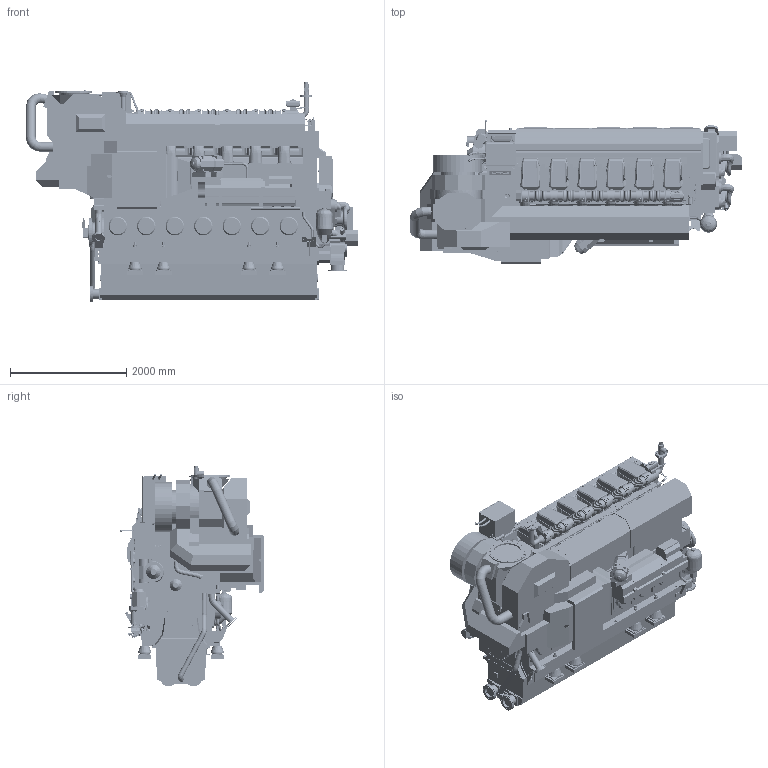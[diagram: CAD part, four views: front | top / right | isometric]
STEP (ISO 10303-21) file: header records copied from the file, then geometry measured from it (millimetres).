
FILE_DESCRIPTION(/* description */ (''),/* implementation_level */ '2;1');
FILE_NAME(/* name */ 'DAAF380574_A.stp',/* time_stamp */ '2021-11-09T14:12:14+02:00',/* author */ (''),/* organization */ (''),/* preprocessor_version */ 'ST-DEVELOPER v16.7',/* originating_system */ 'SIEMENS PLM Software NX 1915',/* authorisation */ '');
FILE_SCHEMA (('AUTOMOTIVE_DESIGN { 1 0 10303 214 3 1 1 1 }'));
Products named in the file (66): PAAF063769_-; PAAF895907_-; PAAF895909_-; PAAF906209_-; PABA065852_-; PAAF975946_-; PAAF975926_-; PABA066964_-; PABA181135_-; PAAF694391_-; PAAF624162_-; PAAF619118_-; PAAF619539_-; PAAF619521_-; PABA089633_-; PAAF906214_-; PAAF909496_-; PAAF909498_-; PAAF620935_-; PAAF616354_-; 0031B006100_K_MODEL; PAAF635310_-; PAAF642271_-; PAAF555086_-; PAAF555085_-; PAAF397145_-; PAAF291916_-; PAAF293701_-; PAAF111190_A; PAAF271372_-; PAAF270351_-; PAAF261807_-; PAAF247479_-; PAAF247485_-; PAAF243367_-; PAAF243503_-; PAAF243746_-; PAAF243671_-; PAAF243686_-; PAAF243622_-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
Assembly tree (115 placements, depth 2):
  PAAF643691_A
    PAAF063630_-
    PAAF074461_-
    PAAF078046_-
    PAAF074388_-
    PAAF078074_-
    PAAF078187_-
    PAAF078236_-
    PAAF078241_-
    PAAF093819_-
    PAAF093493_-
    PAAF068478_-
    PAAF068492_-
    PAAF074909_-
    PAAF078633_-
    PAAF159661_-
    PAAF087111_-
    PAAF087114_-
    PAAF087136_-
    PAAF093490_-
    PAAF087122_-
    PAAF093585_-
    PAAF087082_-
    PAAF064319_-
    PAAF238216_-
    PAAF243345_-
    PAAF243622_-
    PAAF243686_-
    PAAF243671_-
    PAAF243746_-
    PAAF243503_-  x11
    PAAF243367_-
    PAAF247485_-
    PAAF247479_-
    PAAF261807_-
    PAAF270351_-
    PAAF271372_-
    PAAF111190_A
    PAAF293701_-  x11
    PAAF291916_-
    PAAF397145_-
    PAAF555085_-
    PAAF555086_-
    PAAF642271_-  x8
    PAAF635310_-  x8
    0031B006100_K_MODEL  x8
    PAAF616354_-
    PAAF620935_-
    PAAF909498_-
    PAAF909496_-
    PAAF906214_-
    PABA089633_-
    PAAF619521_-
    PAAF619539_-
    PAAF619118_-
    PAAF624162_-
    PAAF694391_-
    PABA181135_-
    PABA066964_-
    PAAF975926_-  x6
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Bounding box: 5707.3 x 2472.13 x 3791.89 mm (x, y, z)
Volume: 13968585163.3 mm3; surface area: 204978379.4 mm2
Topology: 234 solids, 241 shells, 10836 faces, 27400 edges, 17681 vertices
Faces by surface type: plane 6195, cylinder 2760, bspline 1288, torus 268, cone 263, extrusion 51, sphere 9, revolution 2
Full cylindrical faces by diameter (mm): 1 x6, 3 x3, 6 x6, 6.2 x64, 8 x28, 9.539 x2, 10.2 x18, 11 x1, 11.908 x1, 12 x6, 13.2 x4, 13.5 x4, 14 x6, 14.5 x1, 15 x20, 15.6 x4, 15.7 x4, 16 x4, 17 x10, 18 x77, 18.5 x2, 20 x1, 20.075 x1, 22 x109, 24 x1, 26 x3, 28 x3, 30 x19, 30.853 x2, 31 x9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
Entity records: 366955 total; most frequent: CARTESIAN_POINT 163402, ORIENTED_EDGE 40776, DIRECTION 39165, EDGE_CURVE 20388, VERTEX_POINT 13587, VECTOR 13139, LINE 13088, AXIS2_PLACEMENT_3D 13012
